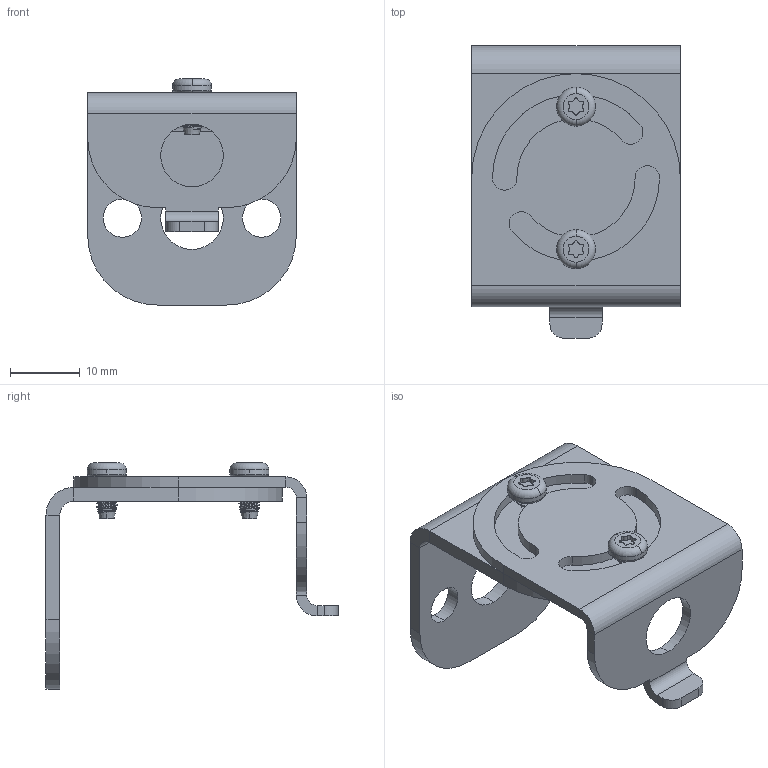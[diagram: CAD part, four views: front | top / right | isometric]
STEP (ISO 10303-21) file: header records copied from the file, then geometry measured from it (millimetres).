
FILE_DESCRIPTION (( 'STEP AP214' ), '1' );
FILE_NAME ('LHF300 Mounting Bracket R2.STEP', '2014-06-25T01:14:19', ( 'WSD-SW' ), ( '' ), 'SwSTEP 2.0', 'SolidWorks 2014', '' );
FILE_SCHEMA (( 'AUTOMOTIVE_DESIGN' ));
Length unit declared in the file: inch
Products named in the file (4): 92750A656_92750A656; LHF300-UM-R2; LHF300-LM-R2; LHF300 Mounting Bracket R2
Assembly tree (4 placements, depth 2):
  LHF300 Mounting Bracket R2
    LHF300-LM-R2
    LHF300-UM-R2
    92750A656_92750A656  x2
Bounding box: 30 x 42 x 32.5 mm (x, y, z)
Volume: 4832.9 mm3; surface area: 6441.7 mm2
Topology: 4 solids, 4 shells, 249 faces, 647 edges, 410 vertices
Faces by surface type: cylinder 147, bspline 42, plane 40, cone 12, torus 8
Entity records: 6421 total; most frequent: CARTESIAN_POINT 2615, ORIENTED_EDGE 812, DIRECTION 708, EDGE_CURVE 406, AXIS2_PLACEMENT_3D 267, VERTEX_POINT 256, EDGE_LOOP 176, VECTOR 174
